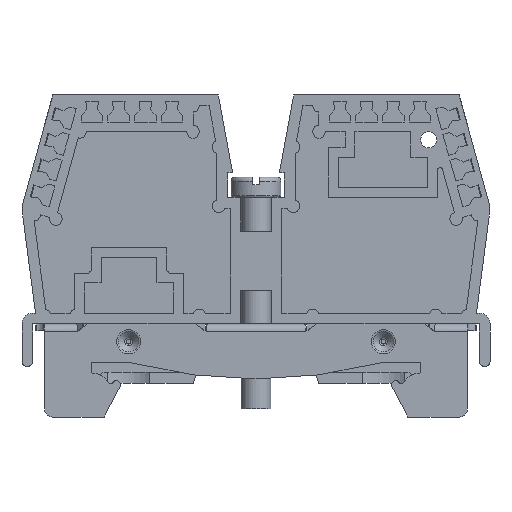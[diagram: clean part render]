
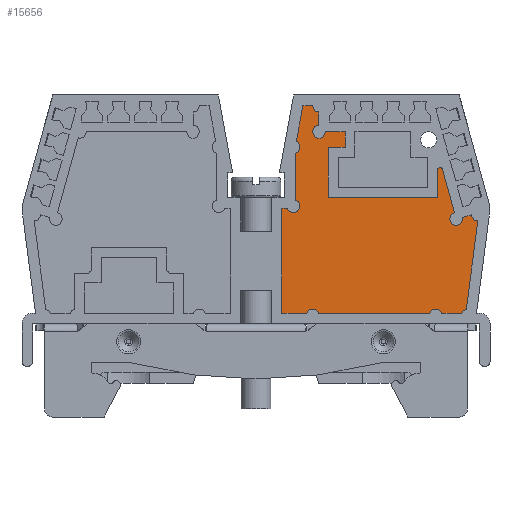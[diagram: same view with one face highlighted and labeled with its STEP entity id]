
A CAD part, front view. The second image highlights one B-rep face of the part: STEP entity #15656.
In plain terms, the highlighted planar face has unit normal (0, -1, 0).
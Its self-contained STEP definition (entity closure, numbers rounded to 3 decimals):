
#401=PLANE('',#16483);
#1200=LINE('',#21700,#2582);
#1203=LINE('',#21706,#2585);
#1206=LINE('',#21712,#2588);
#1209=LINE('',#21718,#2591);
#1212=LINE('',#21724,#2594);
#1215=LINE('',#21730,#2597);
#1666=LINE('',#22665,#3048);
#1669=LINE('',#22671,#3051);
#1672=LINE('',#22677,#3054);
#1674=LINE('',#22681,#3056);
#1676=LINE('',#22685,#3058);
#1678=LINE('',#22689,#3060);
#1680=LINE('',#22693,#3062);
#1682=LINE('',#22697,#3064);
#1684=LINE('',#22701,#3066);
#1686=LINE('',#22705,#3068);
#1690=LINE('',#22715,#3072);
#1693=LINE('',#22721,#3075);
#2582=VECTOR('',#18114,1000.);
#2585=VECTOR('',#18119,1000.);
#2588=VECTOR('',#18124,1000.);
#2591=VECTOR('',#18129,1000.);
#2594=VECTOR('',#18134,1000.);
#2597=VECTOR('',#18139,1000.);
#3048=VECTOR('',#19016,1000.);
#3051=VECTOR('',#19021,1000.);
#3054=VECTOR('',#19026,1000.);
#3056=VECTOR('',#19030,1000.);
#3058=VECTOR('',#19034,1000.);
#3060=VECTOR('',#19038,1000.);
#3062=VECTOR('',#19042,1000.);
#3064=VECTOR('',#19046,1000.);
#3066=VECTOR('',#19050,1000.);
#3068=VECTOR('',#19054,1000.);
#3072=VECTOR('',#19064,1000.);
#3075=VECTOR('',#19069,1000.);
#5785=ORIENTED_EDGE('',*,*,#7566,.F.);
#5786=ORIENTED_EDGE('',*,*,#8088,.T.);
#5787=ORIENTED_EDGE('',*,*,#8067,.F.);
#5788=ORIENTED_EDGE('',*,*,#7569,.F.);
#5789=ORIENTED_EDGE('',*,*,#8089,.T.);
#5790=ORIENTED_EDGE('',*,*,#8065,.F.);
#5791=ORIENTED_EDGE('',*,*,#8090,.T.);
#5792=ORIENTED_EDGE('',*,*,#8062,.F.);
#5793=ORIENTED_EDGE('',*,*,#8059,.F.);
#5794=ORIENTED_EDGE('',*,*,#7581,.F.);
#5795=ORIENTED_EDGE('',*,*,#8091,.T.);
#5796=ORIENTED_EDGE('',*,*,#7578,.F.);
#5797=ORIENTED_EDGE('',*,*,#8092,.T.);
#5798=ORIENTED_EDGE('',*,*,#7575,.F.);
#5799=ORIENTED_EDGE('',*,*,#8093,.T.);
#5800=ORIENTED_EDGE('',*,*,#7572,.F.);
#5801=ORIENTED_EDGE('',*,*,#8094,.T.);
#5802=ORIENTED_EDGE('',*,*,#8087,.F.);
#5803=ORIENTED_EDGE('',*,*,#8095,.T.);
#5804=ORIENTED_EDGE('',*,*,#8084,.F.);
#5805=ORIENTED_EDGE('',*,*,#8081,.F.);
#5806=ORIENTED_EDGE('',*,*,#8079,.F.);
#5807=ORIENTED_EDGE('',*,*,#8077,.F.);
#5808=ORIENTED_EDGE('',*,*,#8075,.F.);
#5809=ORIENTED_EDGE('',*,*,#8073,.F.);
#5810=ORIENTED_EDGE('',*,*,#8071,.F.);
#5811=ORIENTED_EDGE('',*,*,#8069,.F.);
#5812=ORIENTED_EDGE('',*,*,#8096,.T.);
#7566=EDGE_CURVE('',#9072,#9073,#1200,.T.);
#7569=EDGE_CURVE('',#9074,#9075,#1203,.T.);
#7572=EDGE_CURVE('',#9076,#9077,#1206,.T.);
#7575=EDGE_CURVE('',#9078,#9079,#1209,.T.);
#7578=EDGE_CURVE('',#9080,#9081,#1212,.T.);
#7581=EDGE_CURVE('',#9082,#9083,#1215,.T.);
#8059=EDGE_CURVE('',#9083,#9354,#1666,.T.);
#8062=EDGE_CURVE('',#9354,#9355,#1669,.T.);
#8065=EDGE_CURVE('',#9357,#9356,#1672,.T.);
#8067=EDGE_CURVE('',#9075,#9358,#1674,.T.);
#8069=EDGE_CURVE('',#9359,#9360,#1676,.T.);
#8071=EDGE_CURVE('',#9360,#9361,#1678,.T.);
#8073=EDGE_CURVE('',#9361,#9362,#1680,.T.);
#8075=EDGE_CURVE('',#9362,#9363,#1682,.T.);
#8077=EDGE_CURVE('',#9363,#9364,#1684,.T.);
#8079=EDGE_CURVE('',#9364,#9365,#1686,.T.);
#8081=EDGE_CURVE('',#9365,#9366,#9684,.T.);
#8084=EDGE_CURVE('',#9366,#9367,#1690,.T.);
#8087=EDGE_CURVE('',#9369,#9368,#1693,.T.);
#8088=EDGE_CURVE('',#9072,#9358,#9685,.T.);
#8089=EDGE_CURVE('',#9074,#9356,#9686,.T.);
#8090=EDGE_CURVE('',#9357,#9355,#9687,.T.);
#8091=EDGE_CURVE('',#9082,#9081,#9688,.T.);
#8092=EDGE_CURVE('',#9080,#9079,#9689,.T.);
#8093=EDGE_CURVE('',#9078,#9077,#9690,.T.);
#8094=EDGE_CURVE('',#9076,#9368,#9691,.T.);
#8095=EDGE_CURVE('',#9369,#9367,#9692,.T.);
#8096=EDGE_CURVE('',#9359,#9073,#9693,.T.);
#9072=VERTEX_POINT('',#21699);
#9073=VERTEX_POINT('',#21701);
#9074=VERTEX_POINT('',#21705);
#9075=VERTEX_POINT('',#21707);
#9076=VERTEX_POINT('',#21711);
#9077=VERTEX_POINT('',#21713);
#9078=VERTEX_POINT('',#21717);
#9079=VERTEX_POINT('',#21719);
#9080=VERTEX_POINT('',#21723);
#9081=VERTEX_POINT('',#21725);
#9082=VERTEX_POINT('',#21729);
#9083=VERTEX_POINT('',#21731);
#9354=VERTEX_POINT('',#22666);
#9355=VERTEX_POINT('',#22670);
#9356=VERTEX_POINT('',#22674);
#9357=VERTEX_POINT('',#22676);
#9358=VERTEX_POINT('',#22680);
#9359=VERTEX_POINT('',#22684);
#9360=VERTEX_POINT('',#22686);
#9361=VERTEX_POINT('',#22690);
#9362=VERTEX_POINT('',#22694);
#9363=VERTEX_POINT('',#22698);
#9364=VERTEX_POINT('',#22702);
#9365=VERTEX_POINT('',#22706);
#9366=VERTEX_POINT('',#22710);
#9367=VERTEX_POINT('',#22714);
#9368=VERTEX_POINT('',#22718);
#9369=VERTEX_POINT('',#22720);
#9684=CIRCLE('',#16480,0.3);
#9685=CIRCLE('',#16484,0.75);
#9686=CIRCLE('',#16485,0.75);
#9687=CIRCLE('',#16486,0.75);
#9688=CIRCLE('',#16487,0.75);
#9689=CIRCLE('',#16488,0.75);
#9690=CIRCLE('',#16489,0.75);
#9691=CIRCLE('',#16490,0.75);
#9692=CIRCLE('',#16491,0.75);
#9693=CIRCLE('',#16492,0.75);
#10175=EDGE_LOOP('',(#5785,#5786,#5787,#5788,#5789,#5790,#5791,#5792,#5793,
#5794,#5795,#5796,#5797,#5798,#5799,#5800,#5801,#5802,#5803,#5804,#5805,
#5806,#5807,#5808,#5809,#5810,#5811,#5812));
#10844=FACE_BOUND('',#10175,.T.);
#15656=ADVANCED_FACE('',(#10844),#401,.F.);
#16480=AXIS2_PLACEMENT_3D('',#22709,#19058,#19059);
#16483=AXIS2_PLACEMENT_3D('',#22722,#19070,#19071);
#16484=AXIS2_PLACEMENT_3D('',#22723,#19072,#19073);
#16485=AXIS2_PLACEMENT_3D('',#22724,#19074,#19075);
#16486=AXIS2_PLACEMENT_3D('',#22725,#19076,#19077);
#16487=AXIS2_PLACEMENT_3D('',#22726,#19078,#19079);
#16488=AXIS2_PLACEMENT_3D('',#22727,#19080,#19081);
#16489=AXIS2_PLACEMENT_3D('',#22728,#19082,#19083);
#16490=AXIS2_PLACEMENT_3D('',#22729,#19084,#19085);
#16491=AXIS2_PLACEMENT_3D('',#22730,#19086,#19087);
#16492=AXIS2_PLACEMENT_3D('',#22731,#19088,#19089);
#18114=DIRECTION('',(0.,0.,-1.));
#18119=DIRECTION('',(0.18,0.,0.984));
#18124=DIRECTION('',(-0.129,0.,-0.992));
#18129=DIRECTION('',(-1.,0.,0.));
#18134=DIRECTION('',(-1.,0.,0.));
#18139=DIRECTION('',(-1.,0.,0.));
#19016=DIRECTION('',(0.,0.,1.));
#19021=DIRECTION('',(1.,0.,0.));
#19026=DIRECTION('',(0.,0.,1.));
#19030=DIRECTION('',(1.,0.,0.));
#19034=DIRECTION('',(1.,0.,0.));
#19038=DIRECTION('',(0.,0.,-1.));
#19042=DIRECTION('',(-1.,0.,0.));
#19046=DIRECTION('',(0.,0.,-1.));
#19050=DIRECTION('',(1.,0.,0.));
#19054=DIRECTION('',(0.,0.,1.));
#19058=DIRECTION('',(0.,1.,0.));
#19059=DIRECTION('',(1.,0.,0.));
#19064=DIRECTION('',(0.267,0.,-0.964));
#19069=DIRECTION('',(0.964,0.,0.267));
#19070=DIRECTION('',(0.,1.,0.));
#19071=DIRECTION('',(0.,0.,1.));
#19072=DIRECTION('',(0.,1.,0.));
#19073=DIRECTION('',(1.,0.,0.));
#19074=DIRECTION('',(0.,1.,0.));
#19075=DIRECTION('',(-1.,0.,0.));
#19076=DIRECTION('',(0.,1.,0.));
#19077=DIRECTION('',(-1.,0.,0.));
#19078=DIRECTION('',(0.,1.,0.));
#19079=DIRECTION('',(1.,0.,0.));
#19080=DIRECTION('',(0.,1.,0.));
#19081=DIRECTION('',(1.,0.,0.));
#19082=DIRECTION('',(0.,1.,0.));
#19083=DIRECTION('',(1.,0.,0.));
#19084=DIRECTION('',(0.,1.,0.));
#19085=DIRECTION('',(1.,0.,0.));
#19086=DIRECTION('',(0.,1.,0.));
#19087=DIRECTION('',(0.,0.,1.));
#19088=DIRECTION('',(0.,1.,0.));
#19089=DIRECTION('',(1.,0.,0.));
#21699=CARTESIAN_POINT('',(7.443,2.15,16.3));
#21700=CARTESIAN_POINT('',(7.443,2.15,17.05));
#21701=CARTESIAN_POINT('',(7.443,2.15,14.7));
#21705=CARTESIAN_POINT('',(4.771,2.15,12.822));
#21706=CARTESIAN_POINT('',(4.65,2.15,12.158));
#21707=CARTESIAN_POINT('',(5.543,2.15,17.05));
#21711=CARTESIAN_POINT('',(26.218,2.15,3.451));
#21712=CARTESIAN_POINT('',(26.281,2.15,3.935));
#21713=CARTESIAN_POINT('',(24.852,2.15,-7.023));
#21717=CARTESIAN_POINT('',(24.311,2.15,-7.5));
#21718=CARTESIAN_POINT('',(24.789,2.15,-7.5));
#21719=CARTESIAN_POINT('',(21.948,2.15,-7.5));
#21723=CARTESIAN_POINT('',(20.537,2.15,-7.5));
#21724=CARTESIAN_POINT('',(24.789,2.15,-7.5));
#21725=CARTESIAN_POINT('',(7.399,2.15,-7.5));
#21729=CARTESIAN_POINT('',(5.988,2.15,-7.5));
#21730=CARTESIAN_POINT('',(24.789,2.15,-7.5));
#21731=CARTESIAN_POINT('',(3.05,2.15,-7.5));
#22665=CARTESIAN_POINT('',(3.05,2.15,-7.5));
#22666=CARTESIAN_POINT('',(3.05,2.15,4.9));
#22670=CARTESIAN_POINT('',(3.716,2.15,4.9));
#22671=CARTESIAN_POINT('',(3.05,2.15,4.9));
#22674=CARTESIAN_POINT('',(4.65,2.15,11.444));
#22676=CARTESIAN_POINT('',(4.65,2.15,5.87));
#22677=CARTESIAN_POINT('',(4.65,2.15,4.9));
#22680=CARTESIAN_POINT('',(6.693,2.15,17.05));
#22681=CARTESIAN_POINT('',(5.543,2.15,17.05));
#22684=CARTESIAN_POINT('',(8.193,2.15,13.95));
#22685=CARTESIAN_POINT('',(7.443,2.15,13.95));
#22686=CARTESIAN_POINT('',(10.543,2.15,13.95));
#22689=CARTESIAN_POINT('',(10.543,2.15,13.95));
#22690=CARTESIAN_POINT('',(10.543,2.15,12.1));
#22693=CARTESIAN_POINT('',(10.543,2.15,12.1));
#22694=CARTESIAN_POINT('',(8.543,2.15,12.1));
#22697=CARTESIAN_POINT('',(8.543,2.15,12.1));
#22698=CARTESIAN_POINT('',(8.543,2.15,6.2));
#22701=CARTESIAN_POINT('',(8.543,2.15,6.2));
#22702=CARTESIAN_POINT('',(21.443,2.15,6.2));
#22705=CARTESIAN_POINT('',(21.443,2.15,6.2));
#22706=CARTESIAN_POINT('',(21.443,2.15,9.412));
#22709=CARTESIAN_POINT('',(21.743,2.15,9.412));
#22710=CARTESIAN_POINT('',(22.032,2.15,9.492));
#22714=CARTESIAN_POINT('',(23.455,2.15,4.362));
#22715=CARTESIAN_POINT('',(22.032,2.15,9.492));
#22718=CARTESIAN_POINT('',(25.433,2.15,4.132));
#22720=CARTESIAN_POINT('',(24.378,2.15,3.84));
#22721=CARTESIAN_POINT('',(23.656,2.15,3.639));
#22722=CARTESIAN_POINT('',(25.983,2.15,3.973));
#22723=CARTESIAN_POINT('',(7.443,2.15,17.05));
#22724=CARTESIAN_POINT('',(4.421,2.15,12.158));
#22725=CARTESIAN_POINT('',(4.421,2.15,5.156));
#22726=CARTESIAN_POINT('',(6.693,2.15,-7.755));
#22727=CARTESIAN_POINT('',(21.242,2.15,-7.755));
#22728=CARTESIAN_POINT('',(25.016,2.15,-7.755));
#22729=CARTESIAN_POINT('',(26.18,2.15,4.2));
#22730=CARTESIAN_POINT('',(23.656,2.15,3.639));
#22731=CARTESIAN_POINT('',(7.443,2.15,13.95));
